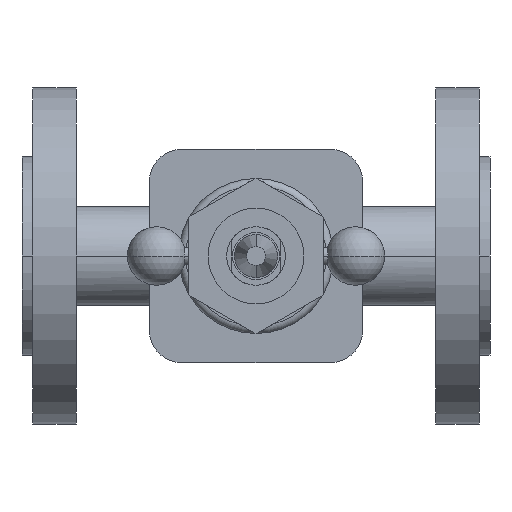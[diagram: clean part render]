
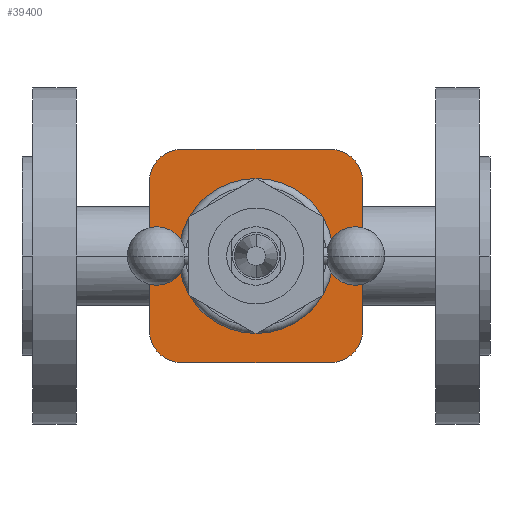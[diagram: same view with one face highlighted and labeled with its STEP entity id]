
A CAD part, front view. The second image highlights one B-rep face of the part: STEP entity #39400.
In plain terms, the highlighted planar face has unit normal (0, -1, 0).
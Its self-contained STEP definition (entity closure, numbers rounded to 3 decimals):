
#13010=CARTESIAN_POINT('',(106.5,-70.,0.));
#13020=VERTEX_POINT('',#13010);
#13050=CARTESIAN_POINT('',(80.,-70.,0.));
#13060=DIRECTION('',(0.,-1.,0.));
#13070=DIRECTION('',(-1.,0.,0.));
#13080=AXIS2_PLACEMENT_3D('',#13050,#13060,#13070);
#13090=CIRCLE('',#13080,26.5);
#13100=CARTESIAN_POINT('',(53.5,-70.,0.));
#13110=VERTEX_POINT('',#13100);
#13120=EDGE_CURVE('',#13110,#13020,#13090,.T.);
#38600=CARTESIAN_POINT('',(42.75,-70.,0.));
#38610=DIRECTION('',(0.,-1.,0.));
#38620=DIRECTION('',(-1.,0.,0.));
#38630=AXIS2_PLACEMENT_3D('',#38600,#38610,#38620);
#38640=PLANE('',#38630);
#38650=CARTESIAN_POINT('',(54.544,-70.,25.456));
#38660=DIRECTION('',(0.,-1.,0.));
#38670=DIRECTION('',(-1.,0.,0.));
#38680=AXIS2_PLACEMENT_3D('',#38650,#38660,#38670);
#38690=CIRCLE('',#38680,11.);
#38700=CARTESIAN_POINT('',(54.544,-70.,36.456));
#38710=VERTEX_POINT('',#38700);
#38720=CARTESIAN_POINT('',(43.544,-70.,25.456));
#38730=VERTEX_POINT('',#38720);
#38740=EDGE_CURVE('',#38710,#38730,#38690,.T.);
#38750=ORIENTED_EDGE('',*,*,#38740,.T.);
#38760=CARTESIAN_POINT('',(48.647,-70.,36.456));
#38770=DIRECTION('',(-1.,0.,0.));
#38780=VECTOR('',#38770,1.);
#38790=LINE('',#38760,#38780);
#38800=CARTESIAN_POINT('',(105.456,-70.,36.456));
#38810=VERTEX_POINT('',#38800);
#38820=EDGE_CURVE('',#38810,#38710,#38790,.T.);
#38830=ORIENTED_EDGE('',*,*,#38820,.T.);
#38840=CARTESIAN_POINT('',(105.456,-70.,25.456));
#38850=DIRECTION('',(0.,-1.,0.));
#38860=DIRECTION('',(0.,0.,1.));
#38870=AXIS2_PLACEMENT_3D('',#38840,#38850,#38860);
#38880=CIRCLE('',#38870,11.);
#38890=CARTESIAN_POINT('',(116.456,-70.,25.456));
#38900=VERTEX_POINT('',#38890);
#38910=EDGE_CURVE('',#38900,#38810,#38880,.T.);
#38920=ORIENTED_EDGE('',*,*,#38910,.T.);
#38930=CARTESIAN_POINT('',(116.456,-70.,12.728));
#38940=DIRECTION('',(0.,0.,1.));
#38950=VECTOR('',#38940,1.);
#38960=LINE('',#38930,#38950);
#38970=CARTESIAN_POINT('',(116.456,-70.,-25.456));
#38980=VERTEX_POINT('',#38970);
#38990=EDGE_CURVE('',#38980,#38900,#38960,.T.);
#39000=ORIENTED_EDGE('',*,*,#38990,.T.);
#39010=CARTESIAN_POINT('',(105.456,-70.,-25.456));
#39020=DIRECTION('',(0.,-1.,0.));
#39030=DIRECTION('',(1.,0.,0.));
#39040=AXIS2_PLACEMENT_3D('',#39010,#39020,#39030);
#39050=CIRCLE('',#39040,11.);
#39060=CARTESIAN_POINT('',(105.456,-70.,-36.456));
#39070=VERTEX_POINT('',#39060);
#39080=EDGE_CURVE('',#39070,#38980,#39050,.T.);
#39090=ORIENTED_EDGE('',*,*,#39080,.T.);
#39100=CARTESIAN_POINT('',(74.103,-70.,-36.456));
#39110=DIRECTION('',(1.,0.,0.));
#39120=VECTOR('',#39110,1.);
#39130=LINE('',#39100,#39120);
#39140=CARTESIAN_POINT('',(54.544,-70.,-36.456));
#39150=VERTEX_POINT('',#39140);
#39160=EDGE_CURVE('',#39150,#39070,#39130,.T.);
#39170=ORIENTED_EDGE('',*,*,#39160,.T.);
#39180=CARTESIAN_POINT('',(54.544,-70.,-25.456));
#39190=DIRECTION('',(0.,-1.,0.));
#39200=DIRECTION('',(0.,0.,-1.));
#39210=AXIS2_PLACEMENT_3D('',#39180,#39190,#39200);
#39220=CIRCLE('',#39210,11.);
#39230=CARTESIAN_POINT('',(43.544,-70.,-25.456));
#39240=VERTEX_POINT('',#39230);
#39250=EDGE_CURVE('',#39240,#39150,#39220,.T.);
#39260=ORIENTED_EDGE('',*,*,#39250,.T.);
#39270=CARTESIAN_POINT('',(43.544,-70.,-12.728));
#39280=DIRECTION('',(0.,0.,-1.));
#39290=VECTOR('',#39280,1.);
#39300=LINE('',#39270,#39290);
#39310=EDGE_CURVE('',#38730,#39240,#39300,.T.);
#39320=ORIENTED_EDGE('',*,*,#39310,.T.);
#39330=EDGE_LOOP('',(#39320,#39260,#39170,#39090,#39000,#38920,#38830,
#38750));
#39340=FACE_OUTER_BOUND('',#39330,.T.);
#39350=EDGE_CURVE('',#13020,#13110,#13090,.T.);
#39360=ORIENTED_EDGE('',*,*,#39350,.F.);
#39370=ORIENTED_EDGE('',*,*,#13120,.F.);
#39380=EDGE_LOOP('',(#39370,#39360));
#39390=FACE_BOUND('',#39380,.T.);
#39400=ADVANCED_FACE('',(#39340,#39390),#38640,.T.);
